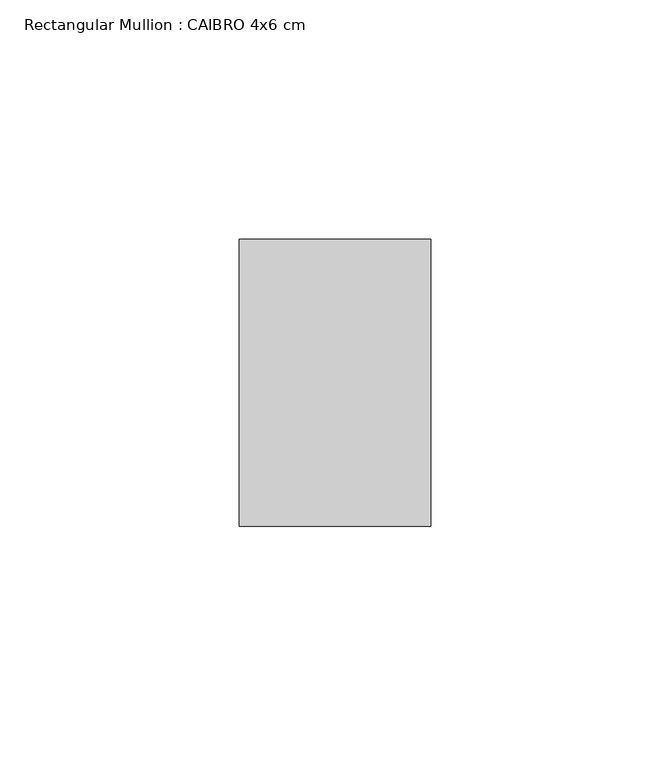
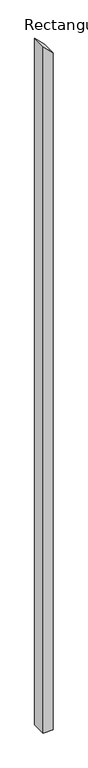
"""IFC4 building model written with IfcOpenShell, lengths in millimetres: member geometry, Rectangular Mullion : CAIBRO 4x6 cm."""

from ifc_helpers import new_model, si_unit, frame, origin, place, context, project, spatial, polyline, outline, extrude, source, transform, mapped, element, save


def rectangular_mullion_caibro_4x6_cm_75deec0e(model_context):
    return source(origin(), model_context, "Body", "SweptSolid", [
        extrude(outline(polyline([(-77.109599, 20.0), (-36.6621022, -20.0), (-2990.3694969, -20.0), (-2990.3694969, 20.0), (-77.109599, 20.0)])), frame((0.0, 0.0, 0.0), z_axis=(0.0, 1.0, 0.0), x_axis=(0.0, 0.0, 1.0)), (0.0, 0.0, 1.0), 60.0),
    ])


if __name__ == "__main__":
    model = new_model("IFC4")
    model_context = context("Model", 3, world=origin())
    ifc_project = project(units=[si_unit("LENGTHUNIT", "METRE", prefix="MILLI")], contexts=[model_context])
    site = spatial("IfcSite", under=ifc_project)
    building = spatial("IfcBuilding", under=site)
    placement = place(None, origin())
    rectangular_mullion_caibro_4x6_cm_shape = rectangular_mullion_caibro_4x6_cm_75deec0e(model_context)
    element("IfcMember", 1, ObjectType="Rectangular Mullion : CAIBRO 4x6 cm", at=placement, inside=building, context=model_context, shape_type="MappedRepresentation", body=[
        mapped(rectangular_mullion_caibro_4x6_cm_shape, transform((0.0, 0.0, 0.0), x_axis=(1.0, 0.0, 0.0), y_axis=(0.0, 1.0, 0.0), z_axis=(0.0, 0.0, 1.0))),
    ])
    save(model, "model.ifc")
